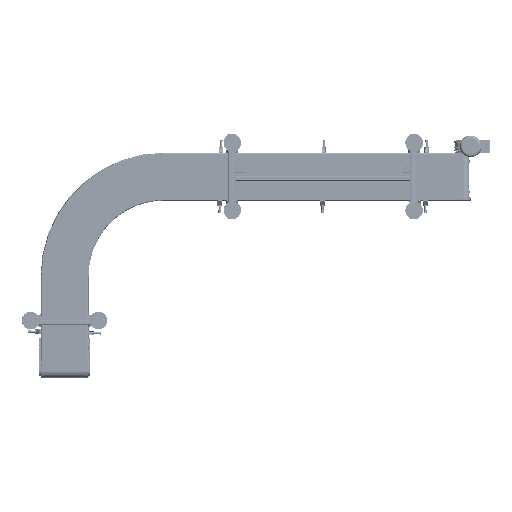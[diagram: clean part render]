
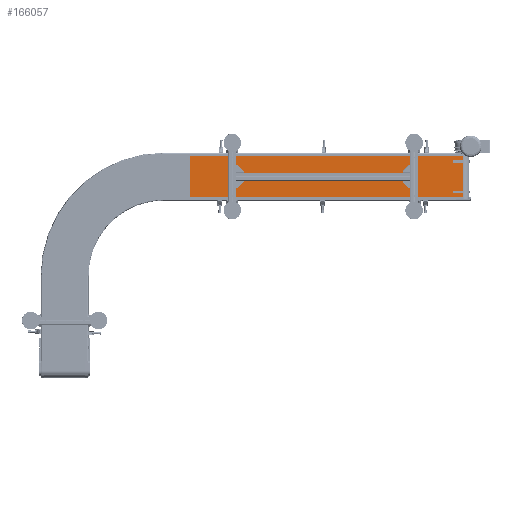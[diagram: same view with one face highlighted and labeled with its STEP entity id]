
A CAD part, front view. The second image highlights one B-rep face of the part: STEP entity #166057.
In plain terms, the highlighted planar face has unit normal (0, -1, 0).
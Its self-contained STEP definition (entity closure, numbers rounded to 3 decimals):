
#8983 = VERTEX_POINT ( 'NONE', #197734 ) ;
#16794 = LINE ( 'NONE', #103106, #72082 ) ;
#20275 = VECTOR ( 'NONE', #29795, 1000. ) ;
#23714 = LINE ( 'NONE', #95995, #81377 ) ;
#25955 = VECTOR ( 'NONE', #148381, 1000. ) ;
#26271 = CARTESIAN_POINT ( 'NONE',  ( -114.3, -76., 0. ) ) ;
#29795 = DIRECTION ( 'NONE',  ( 0., 0., -1. ) ) ;
#32907 = EDGE_CURVE ( 'NONE', #73491, #161967, #16794, .T. ) ;
#63134 = FACE_OUTER_BOUND ( 'NONE', #65680, .T. ) ;
#65680 = EDGE_LOOP ( 'NONE', ( #190358, #118233, #154118, #221604 ) ) ;
#72082 = VECTOR ( 'NONE', #104259, 1000. ) ;
#73491 = VERTEX_POINT ( 'NONE', #122563 ) ;
#74581 = LINE ( 'NONE', #99787, #20275 ) ;
#77229 = LINE ( 'NONE', #169346, #25955 ) ;
#81377 = VECTOR ( 'NONE', #207582, 1000. ) ;
#83359 = EDGE_CURVE ( 'NONE', #163575, #8983, #23714, .T. ) ;
#95995 = CARTESIAN_POINT ( 'NONE',  ( 114.3, -76., 0. ) ) ;
#99787 = CARTESIAN_POINT ( 'NONE',  ( 114.3, -76., 1547. ) ) ;
#103106 = CARTESIAN_POINT ( 'NONE',  ( 114.3, -76., 1547. ) ) ;
#104259 = DIRECTION ( 'NONE',  ( 1., 0., 0. ) ) ;
#118233 = ORIENTED_EDGE ( 'NONE', *, *, #32907, .F. ) ;
#122563 = CARTESIAN_POINT ( 'NONE',  ( -114.3, -76., 1547. ) ) ;
#131329 = EDGE_CURVE ( 'NONE', #73491, #163575, #77229, .T. ) ;
#133958 = AXIS2_PLACEMENT_3D ( 'NONE', #221859, #186770, #218386 ) ;
#147228 = PLANE ( 'NONE',  #133958 ) ;
#148381 = DIRECTION ( 'NONE',  ( 0., 0., -1. ) ) ;
#154118 = ORIENTED_EDGE ( 'NONE', *, *, #131329, .T. ) ;
#161967 = VERTEX_POINT ( 'NONE', #219023 ) ;
#163575 = VERTEX_POINT ( 'NONE', #26271 ) ;
#166057 = ADVANCED_FACE ( 'NONE', ( #63134 ), #147228, .F. ) ;
#169346 = CARTESIAN_POINT ( 'NONE',  ( -114.3, -76., 1547. ) ) ;
#186770 = DIRECTION ( 'NONE',  ( 0., 1., 0. ) ) ;
#190358 = ORIENTED_EDGE ( 'NONE', *, *, #198597, .F. ) ;
#197734 = CARTESIAN_POINT ( 'NONE',  ( 114.3, -76., 0. ) ) ;
#198597 = EDGE_CURVE ( 'NONE', #161967, #8983, #74581, .T. ) ;
#207582 = DIRECTION ( 'NONE',  ( 1., 0., 0. ) ) ;
#218386 = DIRECTION ( 'NONE',  ( -1., 0., 0. ) ) ;
#219023 = CARTESIAN_POINT ( 'NONE',  ( 114.3, -76., 1547. ) ) ;
#221604 = ORIENTED_EDGE ( 'NONE', *, *, #83359, .T. ) ;
#221859 = CARTESIAN_POINT ( 'NONE',  ( 114.3, -76., 1547. ) ) ;
